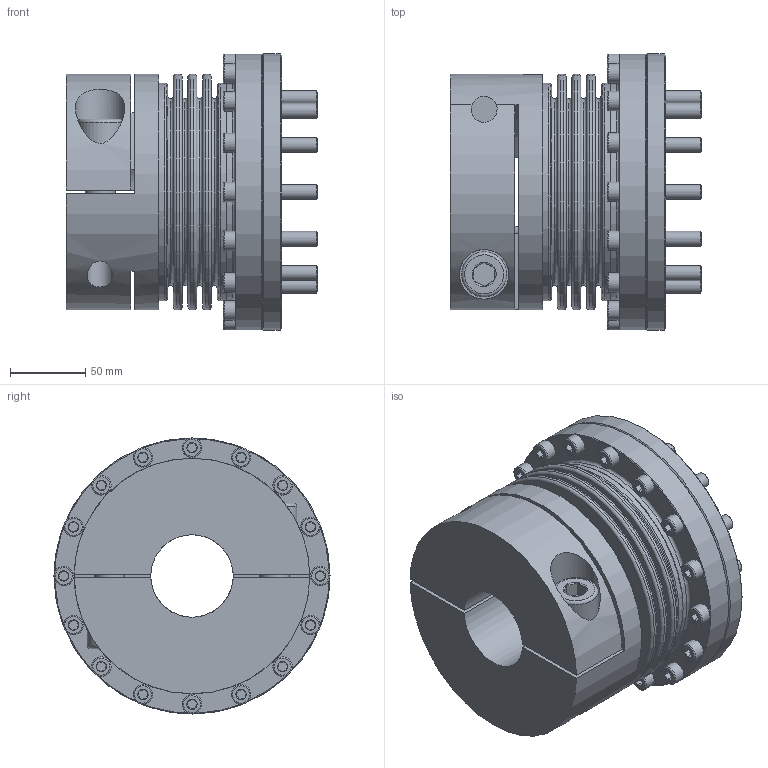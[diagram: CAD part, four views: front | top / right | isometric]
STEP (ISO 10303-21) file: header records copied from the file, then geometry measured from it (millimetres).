
FILE_DESCRIPTION( ( 'Unknown' ), '1' );
FILE_NAME( 'C:/Users/skarpstein/Desktop/KB4F/KB4F-1400-140.stp', 'Unknown', ( 'Unknown' ), ( 'Unknown' ), 'PSStep 16.0.42', 'Unknown', ' ' );
FILE_SCHEMA( ( 'AUTOMOTIVE_DESIGN { 1 0 10303 214 1 1 1 1 }' ) );
Length unit declared in the file: millimetre
Products named in the file (8): Assem1; BK 1400; KN1400-D40; ISO EN DIN 4762 M20x60; ISO 4017 - M10 x 40-N; ISO EN DIN 4762 M8x30; Flansch A125-F1400; Kupplungsflansch F1400
Assembly tree (34 placements, depth 2):
  Assem1
    BK 1400
    KN1400-D40
    ISO EN DIN 4762 M20x60  x2
    ISO 4017 - M10 x 40-N  x12
    ISO EN DIN 4762 M8x30  x16
    Flansch A125-F1400
    Kupplungsflansch F1400
Bounding box: 167.5 x 184 x 184 mm (x, y, z)
Volume: 1774722.1 mm3; surface area: 407091.6 mm2
Topology: 34 solids, 34 shells, 888 faces, 1774 edges, 1055 vertices
Faces by surface type: plane 432, cone 219, cylinder 171, torus 66
Full cylindrical faces by diameter (mm): 6.647 x16, 7 x16, 8 x32, 9 x16, 10 x12, 11 x12, 13 x16, 16 x12, 17.294 x2, 18 x2, 20 x4, 22 x2, 30 x2, 33 x2, 55 x1, 80 x1, 90 x1, 100 x1, 123.3 x1, 142 x1, 144 x4, 145 x2, 152 x2, 157 x4, 160 x1, 184 x2
Entity records: 7850 total; most frequent: CARTESIAN_POINT 1427, DIRECTION 1026, ORIENTED_EDGE 650, AXIS2_PLACEMENT_3D 482, EDGE_LOOP 460, EDGE_CURVE 325, FACE_OUTER_BOUND 316, VERTEX_POINT 271
